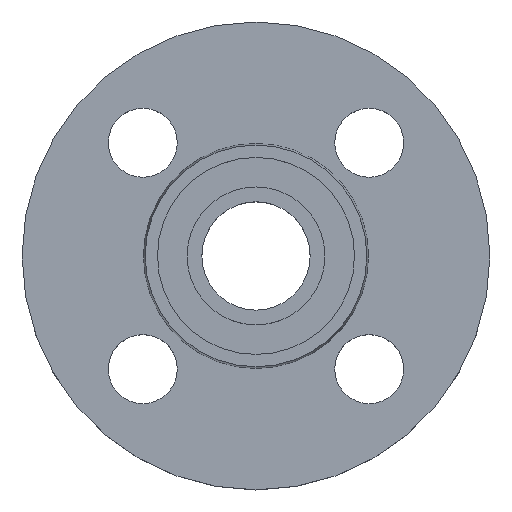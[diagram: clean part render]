
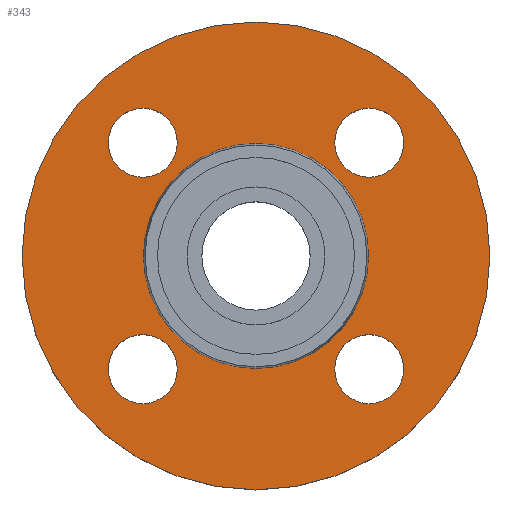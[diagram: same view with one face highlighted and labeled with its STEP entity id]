
A CAD part, top view. The second image highlights one B-rep face of the part: STEP entity #343.
In plain terms, the highlighted planar face has unit normal (0, 0, 1).
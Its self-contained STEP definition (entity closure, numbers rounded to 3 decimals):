
#2 = CARTESIAN_POINT ( 'NONE',  ( 47.5, 0., -2. ) ) ;
#6 = CARTESIAN_POINT ( 'NONE',  ( -15.981, 22.981, -2. ) ) ;
#13 = CARTESIAN_POINT ( 'NONE',  ( -29.981, -22.981, -2. ) ) ;
#17 = CARTESIAN_POINT ( 'NONE',  ( 29.981, 22.981, -2. ) ) ;
#18 = CARTESIAN_POINT ( 'NONE',  ( 15.981, 22.981, -2. ) ) ;
#20 = CARTESIAN_POINT ( 'NONE',  ( 22.853, 0., -2. ) ) ;
#21 = CIRCLE ( 'NONE', #24, 7. ) ;
#24 = AXIS2_PLACEMENT_3D ( 'NONE', #123, #122, #121 ) ;
#31 = CARTESIAN_POINT ( 'NONE',  ( -47.5, 0., -2. ) ) ;
#46 = CIRCLE ( 'NONE', #639, 7. ) ;
#48 = CARTESIAN_POINT ( 'NONE',  ( 29.981, -22.981, -2. ) ) ;
#63 = AXIS2_PLACEMENT_3D ( 'NONE', #498, #499, #500 ) ;
#86 = CARTESIAN_POINT ( 'NONE',  ( -22.981, 22.981, -2. ) ) ;
#87 = DIRECTION ( 'NONE',  ( 0., 0., -1. ) ) ;
#89 = DIRECTION ( 'NONE',  ( 1., 0., 0. ) ) ;
#118 = AXIS2_PLACEMENT_3D ( 'NONE', #205, #266, #207 ) ;
#121 = DIRECTION ( 'NONE',  ( 1., 0., 0. ) ) ;
#122 = DIRECTION ( 'NONE',  ( 0., 0., -1. ) ) ;
#123 = CARTESIAN_POINT ( 'NONE',  ( -22.981, -22.981, -2. ) ) ;
#133 = CARTESIAN_POINT ( 'NONE',  ( -29.981, 22.981, -2. ) ) ;
#160 = CARTESIAN_POINT ( 'NONE',  ( -22.853, 0., -2. ) ) ;
#169 = DIRECTION ( 'NONE',  ( 0., 0., -1. ) ) ;
#170 = DIRECTION ( 'NONE',  ( -1., 0., 0. ) ) ;
#171 = CARTESIAN_POINT ( 'NONE',  ( 15.981, -22.981, -2. ) ) ;
#175 = CARTESIAN_POINT ( 'NONE',  ( 0., 0., -2. ) ) ;
#177 = EDGE_CURVE ( 'NONE', #547, #771, #407, .T. ) ;
#178 = CARTESIAN_POINT ( 'NONE',  ( -15.981, -22.981, -2. ) ) ;
#186 = CIRCLE ( 'NONE', #546, 7. ) ;
#187 = EDGE_CURVE ( 'NONE', #594, #787, #354, .T. ) ;
#196 = FACE_BOUND ( 'NONE', #635, .T. ) ;
#197 = FACE_BOUND ( 'NONE', #658, .T. ) ;
#198 = FACE_BOUND ( 'NONE', #780, .T. ) ;
#199 = FACE_OUTER_BOUND ( 'NONE', #626, .T. ) ;
#201 = DIRECTION ( 'NONE',  ( 0., 0., -1. ) ) ;
#205 = CARTESIAN_POINT ( 'NONE',  ( 22.853, 0., -2. ) ) ;
#207 = DIRECTION ( 'NONE',  ( 1., 0., 0. ) ) ;
#220 = DIRECTION ( 'NONE',  ( 1., 0., 0. ) ) ;
#221 = AXIS2_PLACEMENT_3D ( 'NONE', #861, #862, #863 ) ;
#229 = PLANE ( 'NONE',  #118 ) ;
#230 = DIRECTION ( 'NONE',  ( 0., 0., -1. ) ) ;
#231 = CARTESIAN_POINT ( 'NONE',  ( 22.981, 22.981, -2. ) ) ;
#245 = CIRCLE ( 'NONE', #63, 22.853 ) ;
#255 = CARTESIAN_POINT ( 'NONE',  ( 22.981, 22.981, -2. ) ) ;
#259 = AXIS2_PLACEMENT_3D ( 'NONE', #457, #458, #459 ) ;
#265 = CIRCLE ( 'NONE', #528, 7. ) ;
#266 = DIRECTION ( 'NONE',  ( 0., 0., 1. ) ) ;
#278 = DIRECTION ( 'NONE',  ( 0., 0., -1. ) ) ;
#279 = EDGE_CURVE ( 'NONE', #757, #529, #265, .T. ) ;
#282 = CARTESIAN_POINT ( 'NONE',  ( -22.981, -22.981, -2. ) ) ;
#287 = DIRECTION ( 'NONE',  ( 1., 0., 0. ) ) ;
#302 = CIRCLE ( 'NONE', #492, 7. ) ;
#312 = EDGE_CURVE ( 'NONE', #529, #757, #444, .T. ) ;
#332 = AXIS2_PLACEMENT_3D ( 'NONE', #871, #874, #875 ) ;
#336 = EDGE_CURVE ( 'NONE', #789, #777, #378, .T. ) ;
#343 = ADVANCED_FACE ( 'NONE', ( #482, #480, #197, #198, #196, #199 ), #229, .T. ) ;
#354 = CIRCLE ( 'NONE', #332, 7. ) ;
#356 = CIRCLE ( 'NONE', #400, 7. ) ;
#378 = CIRCLE ( 'NONE', #824, 47.5 ) ;
#397 = CARTESIAN_POINT ( 'NONE',  ( 22.981, -22.981, -2. ) ) ;
#398 = DIRECTION ( 'NONE',  ( 0., 0., -1. ) ) ;
#399 = DIRECTION ( 'NONE',  ( 1., 0., 0. ) ) ;
#400 = AXIS2_PLACEMENT_3D ( 'NONE', #282, #278, #470 ) ;
#402 = EDGE_CURVE ( 'NONE', #624, #519, #356, .T. ) ;
#407 = CIRCLE ( 'NONE', #221, 22.853 ) ;
#430 = EDGE_CURVE ( 'NONE', #783, #782, #302, .T. ) ;
#444 = CIRCLE ( 'NONE', #259, 7. ) ;
#457 = CARTESIAN_POINT ( 'NONE',  ( 22.981, -22.981, -2. ) ) ;
#458 = DIRECTION ( 'NONE',  ( 0., 0., -1. ) ) ;
#459 = DIRECTION ( 'NONE',  ( 1., 0., 0. ) ) ;
#460 = CARTESIAN_POINT ( 'NONE',  ( 0., 0., -2. ) ) ;
#461 = DIRECTION ( 'NONE',  ( 0., 0., -1. ) ) ;
#462 = DIRECTION ( 'NONE',  ( -1., 0., 0. ) ) ;
#470 = DIRECTION ( 'NONE',  ( 1., 0., 0. ) ) ;
#480 = FACE_BOUND ( 'NONE', #533, .T. ) ;
#482 = FACE_BOUND ( 'NONE', #772, .T. ) ;
#492 = AXIS2_PLACEMENT_3D ( 'NONE', #255, #201, #220 ) ;
#498 = CARTESIAN_POINT ( 'NONE',  ( 0., 0., -2. ) ) ;
#499 = DIRECTION ( 'NONE',  ( 0., 0., -1. ) ) ;
#500 = DIRECTION ( 'NONE',  ( -1., 0., 0. ) ) ;
#506 = EDGE_CURVE ( 'NONE', #782, #783, #186, .T. ) ;
#519 = VERTEX_POINT ( 'NONE', #178 ) ;
#523 = EDGE_CURVE ( 'NONE', #777, #789, #693, .T. ) ;
#528 = AXIS2_PLACEMENT_3D ( 'NONE', #397, #398, #399 ) ;
#529 = VERTEX_POINT ( 'NONE', #171 ) ;
#533 = EDGE_LOOP ( 'NONE', ( #642, #643 ) ) ;
#546 = AXIS2_PLACEMENT_3D ( 'NONE', #231, #230, #287 ) ;
#547 = VERTEX_POINT ( 'NONE', #160 ) ;
#592 = EDGE_CURVE ( 'NONE', #771, #547, #245, .T. ) ;
#594 = VERTEX_POINT ( 'NONE', #133 ) ;
#624 = VERTEX_POINT ( 'NONE', #13 ) ;
#626 = EDGE_LOOP ( 'NONE', ( #654, #655 ) ) ;
#635 = EDGE_LOOP ( 'NONE', ( #651, #653 ) ) ;
#638 = ORIENTED_EDGE ( 'NONE', *, *, #279, .T. ) ;
#639 = AXIS2_PLACEMENT_3D ( 'NONE', #86, #87, #89 ) ;
#641 = ORIENTED_EDGE ( 'NONE', *, *, #312, .T. ) ;
#642 = ORIENTED_EDGE ( 'NONE', *, *, #652, .T. ) ;
#643 = ORIENTED_EDGE ( 'NONE', *, *, #402, .T. ) ;
#644 = ORIENTED_EDGE ( 'NONE', *, *, #707, .T. ) ;
#645 = ORIENTED_EDGE ( 'NONE', *, *, #187, .T. ) ;
#648 = ORIENTED_EDGE ( 'NONE', *, *, #430, .T. ) ;
#649 = ORIENTED_EDGE ( 'NONE', *, *, #506, .T. ) ;
#651 = ORIENTED_EDGE ( 'NONE', *, *, #177, .T. ) ;
#652 = EDGE_CURVE ( 'NONE', #519, #624, #21, .T. ) ;
#653 = ORIENTED_EDGE ( 'NONE', *, *, #592, .T. ) ;
#654 = ORIENTED_EDGE ( 'NONE', *, *, #336, .F. ) ;
#655 = ORIENTED_EDGE ( 'NONE', *, *, #523, .F. ) ;
#658 = EDGE_LOOP ( 'NONE', ( #644, #645 ) ) ;
#693 = CIRCLE ( 'NONE', #695, 47.5 ) ;
#695 = AXIS2_PLACEMENT_3D ( 'NONE', #175, #169, #170 ) ;
#707 = EDGE_CURVE ( 'NONE', #787, #594, #46, .T. ) ;
#757 = VERTEX_POINT ( 'NONE', #48 ) ;
#771 = VERTEX_POINT ( 'NONE', #20 ) ;
#772 = EDGE_LOOP ( 'NONE', ( #638, #641 ) ) ;
#777 = VERTEX_POINT ( 'NONE', #31 ) ;
#780 = EDGE_LOOP ( 'NONE', ( #648, #649 ) ) ;
#782 = VERTEX_POINT ( 'NONE', #18 ) ;
#783 = VERTEX_POINT ( 'NONE', #17 ) ;
#787 = VERTEX_POINT ( 'NONE', #6 ) ;
#789 = VERTEX_POINT ( 'NONE', #2 ) ;
#824 = AXIS2_PLACEMENT_3D ( 'NONE', #460, #461, #462 ) ;
#861 = CARTESIAN_POINT ( 'NONE',  ( 0., 0., -2. ) ) ;
#862 = DIRECTION ( 'NONE',  ( 0., 0., -1. ) ) ;
#863 = DIRECTION ( 'NONE',  ( -1., 0., 0. ) ) ;
#871 = CARTESIAN_POINT ( 'NONE',  ( -22.981, 22.981, -2. ) ) ;
#874 = DIRECTION ( 'NONE',  ( 0., 0., -1. ) ) ;
#875 = DIRECTION ( 'NONE',  ( 1., 0., 0. ) ) ;
